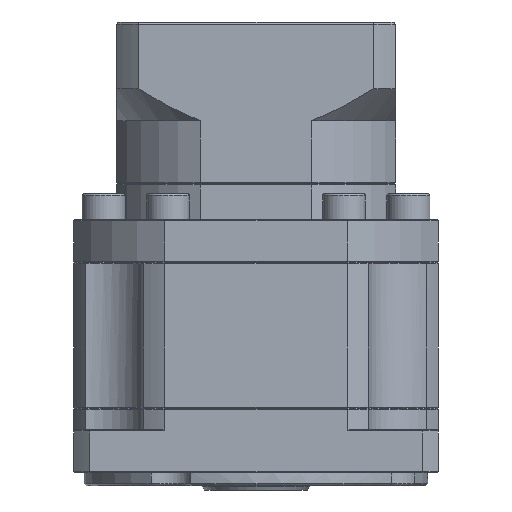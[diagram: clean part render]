
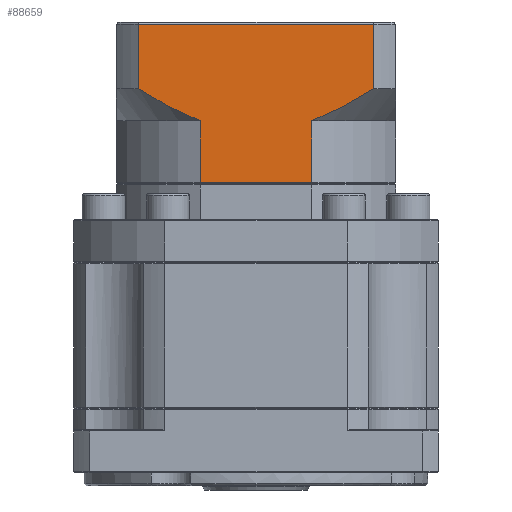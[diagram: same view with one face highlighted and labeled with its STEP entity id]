
A CAD part, front view. The second image highlights one B-rep face of the part: STEP entity #88659.
In plain terms, the highlighted planar face has unit normal (0, -1, 0).
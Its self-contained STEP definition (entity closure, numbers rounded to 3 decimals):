
#2696 = VECTOR ( 'NONE', #13558, 1000. ) ;
#5524 = LINE ( 'NONE', #75347, #92525 ) ;
#8002 = CARTESIAN_POINT ( 'NONE',  ( 1.723, -60.13, 40.548 ) ) ;
#8135 = VECTOR ( 'NONE', #26924, 1000. ) ;
#9129 = CARTESIAN_POINT ( 'NONE',  ( 27.704, -60.13, 40.548 ) ) ;
#11113 = CARTESIAN_POINT ( 'NONE',  ( 42.1, -60.13, 48.048 ) ) ;
#13558 = DIRECTION ( 'NONE',  ( -1., 0., 0. ) ) ;
#16304 = VECTOR ( 'NONE', #41008, 1000. ) ;
#16908 = DIRECTION ( 'NONE',  ( 0., 1., 0. ) ) ;
#18287 = VECTOR ( 'NONE', #31732, 1000. ) ;
#19928 = VECTOR ( 'NONE', #57944, 1000. ) ;
#23912 = EDGE_CURVE ( 'NONE', #84759, #61960, #5524, .T. ) ;
#25112 = LINE ( 'NONE', #55546, #2696 ) ;
#26924 = DIRECTION ( 'NONE',  ( 0., 0., -1. ) ) ;
#29227 = VERTEX_POINT ( 'NONE', #32485 ) ;
#31732 = DIRECTION ( 'NONE',  ( 1., 0., 0. ) ) ;
#32485 = CARTESIAN_POINT ( 'NONE',  ( 27.704, -60.13, 26.137 ) ) ;
#32581 = CARTESIAN_POINT ( 'NONE',  ( 1.723, -60.13, 40.548 ) ) ;
#33428 = PLANE ( 'NONE',  #47781 ) ;
#33451 = CARTESIAN_POINT ( 'NONE',  ( -0.819, -60.13, 41.564 ) ) ;
#33964 = VERTEX_POINT ( 'NONE', #34620 ) ;
#34620 = CARTESIAN_POINT ( 'NONE',  ( 1.723, -60.13, 26.137 ) ) ;
#39545 = CARTESIAN_POINT ( 'NONE',  ( 37.474, -60.13, 45.214 ) ) ;
#41008 = DIRECTION ( 'NONE',  ( 0., 0., 1. ) ) ;
#41890 = CARTESIAN_POINT ( 'NONE',  ( -3.296, -60.13, 42.688 ) ) ;
#47781 = AXIS2_PLACEMENT_3D ( 'NONE', #67304, #16908, #75781 ) ;
#48021 = CARTESIAN_POINT ( 'NONE',  ( 32.694, -60.13, 42.635 ) ) ;
#48943 = EDGE_CURVE ( 'NONE', #84759, #98697, #25112, .T. ) ;
#50272 = DIRECTION ( 'NONE',  ( 0., 0., -1. ) ) ;
#50363 = CARTESIAN_POINT ( 'NONE',  ( -8.089, -60.13, 45.198 ) ) ;
#50543 = FACE_OUTER_BOUND ( 'NONE', #86700, .T. ) ;
#51199 = VERTEX_POINT ( 'NONE', #55071 ) ;
#51864 = EDGE_CURVE ( 'NONE', #33964, #29227, #107786, .T. ) ;
#52355 = CARTESIAN_POINT ( 'NONE',  ( 27.704, -60.13, 40.548 ) ) ;
#55071 = CARTESIAN_POINT ( 'NONE',  ( -12.672, -60.13, 48.048 ) ) ;
#55243 = VERTEX_POINT ( 'NONE', #9129 ) ;
#55546 = CARTESIAN_POINT ( 'NONE',  ( -12.672, -60.13, 63.048 ) ) ;
#56379 = EDGE_CURVE ( 'NONE', #55243, #29227, #97820, .T. ) ;
#56532 = CARTESIAN_POINT ( 'NONE',  ( 27.704, -60.13, 40.548 ) ) ;
#56658 = CARTESIAN_POINT ( 'NONE',  ( -12.672, -60.13, 63.048 ) ) ;
#57944 = DIRECTION ( 'NONE',  ( 0., 0., 1. ) ) ;
#58514 = CARTESIAN_POINT ( 'NONE',  ( 1.081, -60.13, 40.787 ) ) ;
#58867 = CARTESIAN_POINT ( 'NONE',  ( -12.672, -60.13, 48.048 ) ) ;
#61960 = VERTEX_POINT ( 'NONE', #11113 ) ;
#62855 = EDGE_CURVE ( 'NONE', #33964, #100225, #83467, .T. ) ;
#63956 = EDGE_CURVE ( 'NONE', #100225, #51199, #101431, .T. ) ;
#63964 = B_SPLINE_CURVE_WITH_KNOTS ( 'NONE', 3,
 ( #81534, #73070, #89994, #39545, #98507, #48021, #106911, #56532 ),
 .UNSPECIFIED., .F., .F.,
 ( 4, 2, 2, 4 ),
 ( 0.059, 0.063, 0.067, 0.075 ),
 .UNSPECIFIED. ) ;
#67304 = CARTESIAN_POINT ( 'NONE',  ( 47.214, -60.13, 63.548 ) ) ;
#71998 = CARTESIAN_POINT ( 'NONE',  ( 42.1, -60.13, 63.048 ) ) ;
#73070 = CARTESIAN_POINT ( 'NONE',  ( 40.961, -60.13, 47.314 ) ) ;
#74005 = EDGE_CURVE ( 'NONE', #61960, #55243, #63964, .T. ) ;
#75113 = ORIENTED_EDGE ( 'NONE', *, *, #51864, .T. ) ;
#75347 = CARTESIAN_POINT ( 'NONE',  ( 42.1, -60.13, 45.548 ) ) ;
#75781 = DIRECTION ( 'NONE',  ( -1., 0., 0. ) ) ;
#81534 = CARTESIAN_POINT ( 'NONE',  ( 42.1, -60.13, 48.048 ) ) ;
#82947 = CARTESIAN_POINT ( 'NONE',  ( -12.672, -60.13, 45.548 ) ) ;
#83467 = LINE ( 'NONE', #32581, #16304 ) ;
#83857 = CARTESIAN_POINT ( 'NONE',  ( 0.442, -60.13, 41.039 ) ) ;
#84759 = VERTEX_POINT ( 'NONE', #71998 ) ;
#86242 = ORIENTED_EDGE ( 'NONE', *, *, #23912, .F. ) ;
#86700 = EDGE_LOOP ( 'NONE', ( #86242, #89296, #91112, #98600, #101804, #75113, #93892, #87395 ) ) ;
#87064 = LINE ( 'NONE', #82947, #19928 ) ;
#87395 = ORIENTED_EDGE ( 'NONE', *, *, #74005, .F. ) ;
#88659 = ADVANCED_FACE ( 'NONE', ( #50543 ), #33428, .F. ) ;
#89296 = ORIENTED_EDGE ( 'NONE', *, *, #48943, .T. ) ;
#89994 = CARTESIAN_POINT ( 'NONE',  ( 39.81, -60.13, 46.599 ) ) ;
#90345 = CARTESIAN_POINT ( 'NONE',  ( 1.723, -60.13, 40.548 ) ) ;
#91112 = ORIENTED_EDGE ( 'NONE', *, *, #106355, .F. ) ;
#92366 = CARTESIAN_POINT ( 'NONE',  ( -1.442, -60.13, 41.838 ) ) ;
#92525 = VECTOR ( 'NONE', #50272, 1000. ) ;
#93892 = ORIENTED_EDGE ( 'NONE', *, *, #56379, .F. ) ;
#97820 = LINE ( 'NONE', #52355, #8135 ) ;
#98507 = CARTESIAN_POINT ( 'NONE',  ( 36.288, -60.13, 44.544 ) ) ;
#98600 = ORIENTED_EDGE ( 'NONE', *, *, #63956, .F. ) ;
#98697 = VERTEX_POINT ( 'NONE', #56658 ) ;
#100225 = VERTEX_POINT ( 'NONE', #90345 ) ;
#100813 = CARTESIAN_POINT ( 'NONE',  ( -4.508, -60.13, 43.293 ) ) ;
#101431 = B_SPLINE_CURVE_WITH_KNOTS ( 'NONE', 3,
 ( #8002, #58514, #83857, #33451, #92366, #41890, #100813, #50363, #109265, #58867 ),
 .UNSPECIFIED., .F., .F.,
 ( 4, 2, 2, 2, 4 ),
 ( 0.101, 0.104, 0.106, 0.11, 0.118 ),
 .UNSPECIFIED. ) ;
#101804 = ORIENTED_EDGE ( 'NONE', *, *, #62855, .F. ) ;
#106355 = EDGE_CURVE ( 'NONE', #51199, #98697, #87064, .T. ) ;
#106911 = CARTESIAN_POINT ( 'NONE',  ( 30.243, -60.13, 41.49 ) ) ;
#107786 = LINE ( 'NONE', #107886, #18287 ) ;
#107886 = CARTESIAN_POINT ( 'NONE',  ( 47.214, -60.13, 26.137 ) ) ;
#109265 = CARTESIAN_POINT ( 'NONE',  ( -10.403, -60.13, 46.586 ) ) ;
